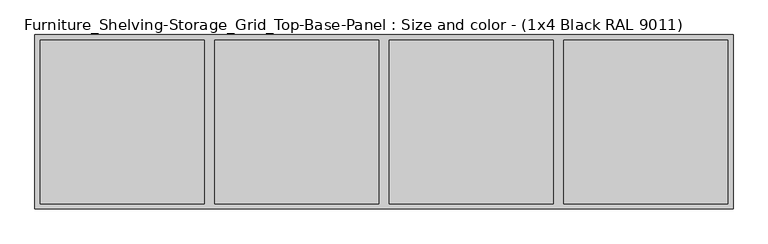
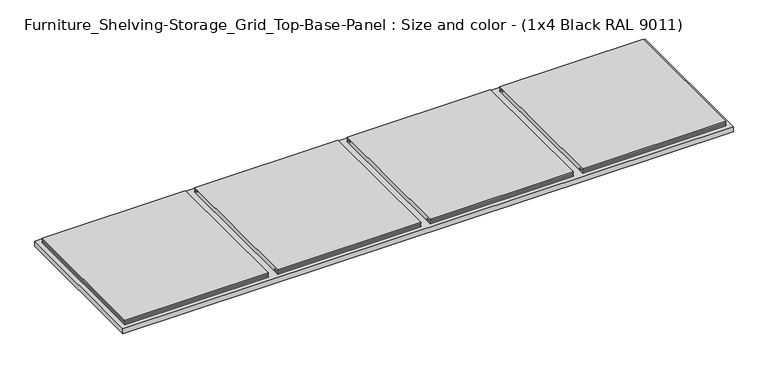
"""IFC4 building model written with IfcOpenShell, lengths in millimetres: furniture geometry, Furniture_Shelving-Storage_Grid_Top-Base-Panel : Size and color - (1x4 Black RAL 9011)."""

from ifc_helpers import new_model, si_unit, origin, place, context, project, spatial, faceted_brep, source, transform, mapped, element, save


def furniture_shelving_storage_grid_top_base_panel_size_and_bb9ed435(model_context):
    return source(origin(), model_context, "Body", "Brep", [
        faceted_brep([(212.999622, 176.0004541, 17.25), (588.999622, 176.0004541, 17.25), (588.999622, 188.0004541, 17.25), (212.999622, 188.0004541, 17.25), (212.999622, 176.0004541, 21.25), (212.999622, 188.0004541, 21.25), (588.999622, 188.0004541, 21.25), (588.999622, 176.0004541, 21.25), (613.999622, 176.0004541, 21.25), (613.999622, 188.0004541, 21.25), (989.999622, 188.0004541, 21.25), (989.999622, 176.0004541, 21.25), (989.999622, -175.9995459, 21.25), (989.999622, -187.9995459, 21.25), (613.999622, -187.9995459, 21.25), (613.999622, -175.9995459, 21.25), (613.999622, 176.0004541, 17.25), (989.999622, 176.0004541, 17.25), (989.999622, 188.0004541, 17.25), (613.999622, 188.0004541, 17.25), (989.999622, -175.9995459, 17.25), (613.999622, -175.9995459, 17.25), (613.999622, -187.9995459, 17.25), (989.999622, -187.9995459, 17.25), (588.999622, -175.9995459, 17.25), (212.999622, -175.9995459, 17.25), (212.999622, -187.9995459, 17.25), (588.999622, -187.9995459, 17.25), (588.999622, -175.9995459, 21.25), (588.999622, -187.9995459, 21.25), (212.999622, -187.9995459, 21.25), (212.999622, -175.9995459, 21.25), (1378.999622, -175.9995459, 21.25), (1378.999622, 176.0004541, 21.25), (1014.999622, 176.0004541, 21.25), (1014.999622, 188.0004541, 21.25), (1390.999622, 188.0004541, 21.25), (1390.999622, -187.9995459, 21.25), (1014.999622, -187.9995459, 21.25), (1014.999622, -175.9995459, 21.25), (1378.999622, -175.9995459, 17.25), (1014.999622, -175.9995459, 17.25), (1014.999622, -187.9995459, 17.25), (1390.999622, -187.9995459, 17.25), (1390.999622, 188.0004541, 17.25), (1014.999622, 188.0004541, 17.25), (1014.999622, 176.0004541, 17.25), (1378.999622, 176.0004541, 17.25), (1403.499622, 200.5004541, 13.0), (1403.499622, -200.4995459, 13.0), (1403.499622, -200.4995459, 0.0), (1403.499622, 200.5004541, 0.0), (1390.999622, -187.9995459, 13.0), (1390.999622, 188.0004541, 13.0), (1390.999622, 188.0004541, 25.5), (1390.999622, -187.9995459, 25.5), (1014.999622, -187.9995459, 13.0), (1014.999622, -187.9995459, 25.5), (1014.999622, 188.0004541, 13.0), (1014.999622, 188.0004541, 25.5), (989.999622, 188.0004541, 25.5), (989.999622, -187.9995459, 25.5), (989.999622, -187.9995459, 13.0), (989.999622, 188.0004541, 13.0), (613.999622, -187.9995459, 13.0), (613.999622, -187.9995459, 25.5), (613.999622, 188.0004541, 13.0), (613.999622, 188.0004541, 25.5), (212.999622, -187.9995459, 25.5), (212.999622, 188.0004541, 25.5), (212.999622, 188.0004541, 13.0), (212.999622, -187.9995459, 13.0), (588.999622, -187.9995459, 13.0), (588.999622, 188.0004541, 25.5), (588.999622, -187.9995459, 25.5), (588.999622, 188.0004541, 13.0), (187.999622, -175.9995459, 17.25), (-176.000378, -175.9995459, 17.25), (-176.000378, 176.0004541, 17.25), (187.999622, 176.0004541, 17.25), (187.999622, 188.0004541, 17.25), (-188.000378, 188.0004541, 17.25), (-188.000378, -187.9995459, 17.25), (187.999622, -187.9995459, 17.25), (187.999622, -175.9995459, 21.25), (187.999622, -187.9995459, 21.25), (-188.000378, -187.9995459, 21.25), (-188.000378, 188.0004541, 21.25), (187.999622, 188.0004541, 21.25), (187.999622, 176.0004541, 21.25), (-176.000378, 176.0004541, 21.25), (-176.000378, -175.9995459, 21.25), (-200.500378, 200.5004541, 13.0), (-200.500378, -200.4995459, 13.0), (187.999622, -187.9995459, 13.0), (-188.000378, -187.9995459, 13.0), (-188.000378, 188.0004541, 13.0), (187.999622, 188.0004541, 13.0), (-200.500378, -200.4995459, 0.0), (-200.500378, 200.5004541, 0.0), (187.999622, 188.0004541, 25.5), (187.999622, -187.9995459, 25.5), (-188.000378, -187.9995459, 25.5), (-188.000378, 188.0004541, 25.5)], [[[0, 1, 2, 3]], [[4, 5, 6, 7]], [[8, 9, 10, 11]], [[12, 13, 14, 15]], [[16, 17, 18, 19]], [[20, 21, 22, 23]], [[24, 25, 26, 27]], [[28, 29, 30, 31]], [[32, 33, 34, 35, 36, 37, 38, 39]], [[40, 41, 42, 43, 44, 45, 46, 47]], [[48, 49, 50, 51]], [[32, 40, 47, 33]], [[33, 47, 46, 34]], [[43, 52, 53, 44]], [[36, 54, 55, 37]], [[40, 32, 39, 41]], [[42, 56, 52, 43]], [[37, 55, 57, 38]], [[34, 46, 45, 58, 56, 42, 41, 39, 38, 57, 59, 35]], [[44, 53, 58, 45]], [[59, 57, 55, 54]], [[35, 59, 54, 36]], [[17, 16, 8, 11]], [[17, 11, 10, 60, 61, 13, 12, 20, 23, 62, 63, 18]], [[12, 15, 21, 20]], [[22, 64, 62, 23]], [[13, 61, 65, 14]], [[8, 16, 19, 66, 64, 22, 21, 15, 14, 65, 67, 9]], [[18, 63, 66, 19]], [[67, 65, 61, 60]], [[9, 67, 60, 10]], [[25, 31, 30, 68, 69, 5, 4, 0, 3, 70, 71, 26]], [[25, 24, 28, 31]], [[26, 71, 72, 27]], [[4, 7, 1, 0]], [[1, 7, 6, 73, 74, 29, 28, 24, 27, 72, 75, 2]], [[2, 75, 70, 3]], [[74, 73, 69, 68]], [[5, 69, 73, 6]], [[29, 74, 68, 30]], [[76, 77, 78, 79, 80, 81, 82, 83]], [[84, 85, 86, 87, 88, 89, 90, 91]], [[49, 48, 92, 93], [53, 52, 56, 58], [66, 63, 62, 64], [72, 71, 70, 75], [94, 95, 96, 97]], [[98, 99, 51, 50]], [[98, 50, 49, 93]], [[99, 98, 93, 92]], [[99, 92, 48, 51]], [[77, 91, 90, 78]], [[81, 96, 95, 82]], [[91, 77, 76, 84]], [[82, 95, 94, 83]], [[78, 90, 89, 79]], [[79, 89, 88, 100, 101, 85, 84, 76, 83, 94, 97, 80]], [[86, 102, 103, 87]], [[80, 97, 96, 81]], [[101, 100, 103, 102]], [[87, 103, 100, 88]], [[85, 101, 102, 86]]]),
    ])


if __name__ == "__main__":
    model = new_model("IFC4")
    model_context = context("Model", 3, world=origin())
    ifc_project = project(units=[si_unit("LENGTHUNIT", "METRE", prefix="MILLI")], contexts=[model_context])
    site = spatial("IfcSite", under=ifc_project)
    building = spatial("IfcBuilding", under=site)
    placement = place(None, origin())
    furniture_shelving_storage_grid_top_base_panel_size_and_shape = furniture_shelving_storage_grid_top_base_panel_size_and_bb9ed435(model_context)
    element("IfcFurniture", 1, ObjectType="Furniture_Shelving-Storage_Grid_Top-Base-Panel : Size and color - (1x4 Black RAL 9011)", at=placement, inside=building, context=model_context, shape_type="MappedRepresentation", body=[
        mapped(furniture_shelving_storage_grid_top_base_panel_size_and_shape, transform((0.0, 0.0, 0.0), x_axis=(1.0, 0.0, 0.0), y_axis=(0.0, 1.0, 0.0), z_axis=(0.0, 0.0, 1.0))),
    ])
    save(model, "model.ifc")
